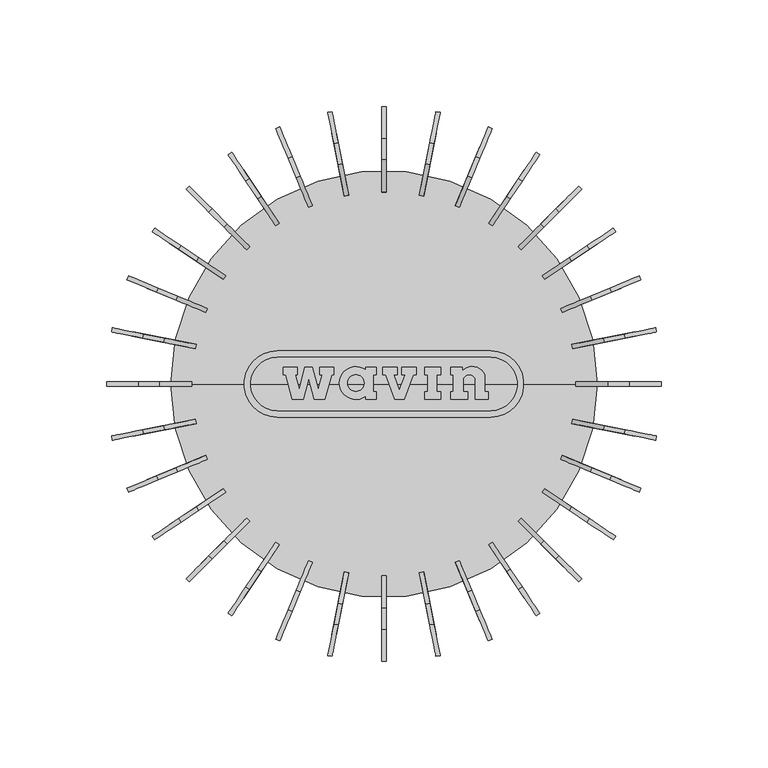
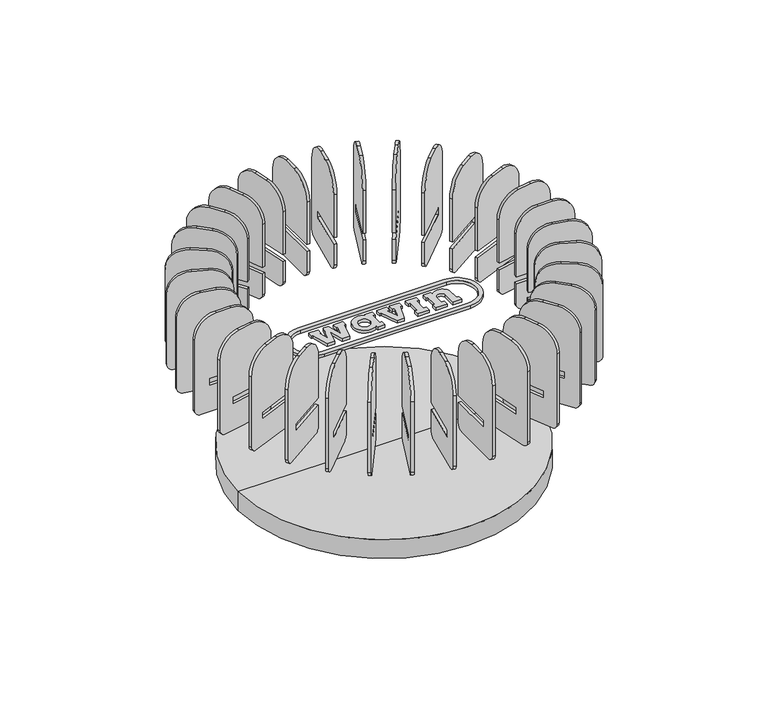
"""IFC4 building model written with IfcOpenShell, lengths in millimetres: sanitary terminal geometry, PAVCO_PVC QS Tragante : QS-M-75-260 Canal Metálica."""

from ifc_helpers import new_model, si_unit, point, frame, frame_2d, origin, place, context, project, spatial, polyline, circle_curve, trimmed, segment, composite_curve, outline, extrude, source, transform, mapped, element, save
from ifc_brep_helpers import plane_surface, cylinder_surface, advanced_brep


def sanitary_terminal_2fec540a(model_context):
    return source(origin(), model_context, "Body", "SolidModel", [
        extrude(outline(composite_curve([segment(trimmed(circle_curve(frame_2d((0.0, -4.0)), 4.0), [point((-4.0, -4.0))], [point((0.0, 0.0))], False, "CARTESIAN"), True, "CONTINUOUS"), segment(polyline([(0.0, 0.0), (15.0, 0.0), (15.0, -29.9999999), (20.0, -29.9999999), (20.0, 0.0), (51.0, 0.0)]), True, "CONTINUOUS"), segment(trimmed(circle_curve(frame_2d((51.0, -14.9999999)), 15.0), [point((51.0, 0.0))], [point((66.0, -14.9999999))], False, "CARTESIAN"), True, "CONTINUOUS"), segment(polyline([(66.0, -14.9999999), (66.0, -25.0)]), True, "CONTINUOUS"), segment(trimmed(circle_curve(frame_2d((51.0, -25.0)), 15.0), [point((66.0, -25.0))], [point((51.0, -40.0))], False, "CARTESIAN"), True, "CONTINUOUS"), segment(polyline([(51.0, -40.0), (0.0, -40.0)]), True, "CONTINUOUS"), segment(trimmed(circle_curve(frame_2d((0.0, -35.9999999)), 4.0), [point((0.0, -40.0))], [point((-4.0, -35.9999999))], False, "CARTESIAN"), True, "CONTINUOUS"), segment(polyline([(-4.0, -35.9999999), (-4.0, -4.0)]), True, "CONTINUOUS")], self_intersect=False)), frame((-83.5318414, 33.5176294, 75.0), z_axis=(0.38268343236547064, 0.9238795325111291, 0.0), x_axis=(0.0, 0.0, 1.0)), (0.0, 0.0, 1.0), 2.0),
        extrude(outline(composite_curve([segment(trimmed(circle_curve(frame_2d((0.0, -4.0)), 4.0), [point((-4.0, -4.0))], [point((0.0, 0.0))], False, "CARTESIAN"), True, "CONTINUOUS"), segment(polyline([(0.0, 0.0), (15.0, 0.0), (15.0, -30.0), (20.0, -30.0), (20.0, 0.0), (51.0, 0.0)]), True, "CONTINUOUS"), segment(trimmed(circle_curve(frame_2d((51.0, -15.0)), 15.0), [point((51.0, 0.0))], [point((66.0, -15.0))], False, "CARTESIAN"), True, "CONTINUOUS"), segment(polyline([(66.0, -15.0), (66.0, -25.0)]), True, "CONTINUOUS"), segment(trimmed(circle_curve(frame_2d((51.0, -25.0)), 15.0), [point((66.0, -25.0))], [point((51.0, -40.0))], False, "CARTESIAN"), True, "CONTINUOUS"), segment(polyline([(51.0, -40.0), (0.0, -40.0)]), True, "CONTINUOUS"), segment(trimmed(circle_curve(frame_2d((0.0, -36.0)), 4.0), [point((0.0, -40.0))], [point((-4.0, -36.0))], False, "CARTESIAN"), True, "CONTINUOUS"), segment(polyline([(-4.0, -36.0), (-4.0, -4.0)]), True, "CONTINUOUS")], self_intersect=False)), frame((-75.3878353, 49.1698514, 75.0), z_axis=(0.5555702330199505, 0.8314696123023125, 0.0), x_axis=(0.0, 0.0, 1.0)), (0.0, 0.0, 1.0), 2.0),
        extrude(outline(composite_curve([segment(trimmed(circle_curve(frame_2d((0.0, -4.0)), 4.0), [point((-4.0, -4.0))], [point((0.0, 0.0))], False, "CARTESIAN"), True, "CONTINUOUS"), segment(polyline([(0.0, 0.0), (15.0, 0.0), (15.0, -30.0), (20.0, -30.0), (20.0, 0.0), (51.0, 0.0)]), True, "CONTINUOUS"), segment(trimmed(circle_curve(frame_2d((51.0, -15.0)), 15.0), [point((51.0, 0.0))], [point((66.0, -15.0))], False, "CARTESIAN"), True, "CONTINUOUS"), segment(polyline([(66.0, -15.0), (66.0, -25.0)]), True, "CONTINUOUS"), segment(trimmed(circle_curve(frame_2d((51.0, -25.0)), 15.0), [point((66.0, -25.0))], [point((51.0, -40.0))], False, "CARTESIAN"), True, "CONTINUOUS"), segment(polyline([(51.0, -40.0), (0.0, -40.0)]), True, "CONTINUOUS"), segment(trimmed(circle_curve(frame_2d((0.0, -36.0)), 4.0), [point((0.0, -40.0))], [point((-4.0, -36.0))], False, "CARTESIAN"), True, "CONTINUOUS"), segment(polyline([(-4.0, -36.0), (-4.0, -4.0)]), True, "CONTINUOUS")], self_intersect=False)), frame((-64.3467171, 62.9325035, 75.0), z_axis=(0.7071067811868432, 0.7071067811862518, 0.0), x_axis=(0.0, 0.0, 1.0)), (0.0, 0.0, 1.0), 2.0),
        extrude(outline(composite_curve([segment(trimmed(circle_curve(frame_2d((0.0, -3.9999999)), 4.0), [point((-4.0, -3.9999999))], [point((0.0, 0.0))], False, "CARTESIAN"), True, "CONTINUOUS"), segment(polyline([(0.0, 0.0), (15.0, 0.0), (15.0, -29.9999999), (20.0, -29.9999999), (20.0, 0.0), (51.0, 0.0)]), True, "CONTINUOUS"), segment(trimmed(circle_curve(frame_2d((51.0, -15.0)), 15.0), [point((51.0, 0.0))], [point((66.0, -15.0))], False, "CARTESIAN"), True, "CONTINUOUS"), segment(polyline([(66.0, -15.0), (66.0, -25.0)]), True, "CONTINUOUS"), segment(trimmed(circle_curve(frame_2d((51.0, -25.0)), 15.0), [point((66.0, -25.0))], [point((51.0, -40.0))], False, "CARTESIAN"), True, "CONTINUOUS"), segment(polyline([(51.0, -40.0), (0.0, -40.0)]), True, "CONTINUOUS"), segment(trimmed(circle_curve(frame_2d((0.0, -36.0)), 4.0), [point((0.0, -40.0))], [point((-4.0, -36.0))], False, "CARTESIAN"), True, "CONTINUOUS"), segment(polyline([(-4.0, -36.0), (-4.0, -3.9999999)]), True, "CONTINUOUS")], self_intersect=False)), frame((-50.8327906, 74.2766949, 75.0), z_axis=(0.8314696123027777, 0.5555702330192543, 0.0), x_axis=(0.0, 0.0, 1.0)), (0.0, 0.0, 1.0), 2.0),
        extrude(outline(composite_curve([segment(trimmed(circle_curve(frame_2d((0.0, -4.0)), 4.0), [point((-4.0, -4.0))], [point((0.0, 0.0))], False, "CARTESIAN"), True, "CONTINUOUS"), segment(polyline([(0.0, 0.0), (15.0, 0.0), (15.0, -30.0), (20.0, -30.0), (20.0, 0.0), (51.0, 0.0)]), True, "CONTINUOUS"), segment(trimmed(circle_curve(frame_2d((51.0, -15.0)), 15.0), [point((51.0, 0.0))], [point((66.0, -15.0))], False, "CARTESIAN"), True, "CONTINUOUS"), segment(polyline([(66.0, -15.0), (66.0, -25.0)]), True, "CONTINUOUS"), segment(trimmed(circle_curve(frame_2d((51.0, -25.0)), 15.0), [point((66.0, -25.0))], [point((51.0, -40.0))], False, "CARTESIAN"), True, "CONTINUOUS"), segment(polyline([(51.0, -40.0), (0.0, -40.0)]), True, "CONTINUOUS"), segment(trimmed(circle_curve(frame_2d((0.0, -36.0)), 4.0), [point((0.0, -40.0))], [point((-4.0, -36.0))], False, "CARTESIAN"), True, "CONTINUOUS"), segment(polyline([(-4.0, -36.0), (-4.0, -4.0)]), True, "CONTINUOUS")], self_intersect=False)), frame((-35.3653884, 82.7664745, 75.0), z_axis=(0.9238795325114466, 0.3826834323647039, 0.0), x_axis=(0.0, 0.0, 1.0)), (0.0, 0.0, 1.0), 2.0),
        extrude(outline(composite_curve([segment(trimmed(circle_curve(frame_2d((0.0, -4.0)), 4.0), [point((-4.0, -4.0))], [point((0.0, 0.0))], False, "CARTESIAN"), True, "CONTINUOUS"), segment(polyline([(0.0, 0.0), (15.0, 0.0), (15.0, -30.0), (20.0, -30.0), (20.0, 0.0), (51.0, 0.0)]), True, "CONTINUOUS"), segment(trimmed(circle_curve(frame_2d((51.0, -15.0)), 15.0), [point((51.0, 0.0))], [point((66.0, -15.0))], False, "CARTESIAN"), True, "CONTINUOUS"), segment(polyline([(66.0, -15.0), (66.0, -25.0)]), True, "CONTINUOUS"), segment(trimmed(circle_curve(frame_2d((51.0, -25.0)), 15.0), [point((66.0, -25.0))], [point((51.0, -40.0))], False, "CARTESIAN"), True, "CONTINUOUS"), segment(polyline([(51.0, -40.0), (0.0, -40.0)]), True, "CONTINUOUS"), segment(trimmed(circle_curve(frame_2d((0.0, -36.0)), 4.0), [point((0.0, -40.0))], [point((-4.0, -36.0))], False, "CARTESIAN"), True, "CONTINUOUS"), segment(polyline([(-4.0, -36.0), (-4.0, -4.0)]), True, "CONTINUOUS")], self_intersect=False)), frame((-18.5389143, 88.0755849, 75.0), z_axis=(0.980785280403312, 0.19509032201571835, 0.0), x_axis=(0.0, 0.0, 1.0)), (0.0, 0.0, 1.0), 2.0),
        extrude(outline(composite_curve([segment(trimmed(circle_curve(frame_2d((94.0, 75.0)), 4.0), [point((94.0, 71.0))], [point((90.0, 75.0))], False, "CARTESIAN"), True, "CONTINUOUS"), segment(polyline([(90.0, 75.0), (90.0, 90.0), (120.0, 90.0), (120.0, 95.0), (90.0, 95.0), (90.0, 126.0)]), True, "CONTINUOUS"), segment(trimmed(circle_curve(frame_2d((105.0, 126.0)), 15.0), [point((90.0, 126.0))], [point((105.0, 141.0))], False, "CARTESIAN"), True, "CONTINUOUS"), segment(polyline([(105.0, 141.0), (115.0, 141.0)]), True, "CONTINUOUS"), segment(trimmed(circle_curve(frame_2d((115.0, 126.0)), 15.0), [point((115.0, 141.0))], [point((130.0, 126.0))], False, "CARTESIAN"), True, "CONTINUOUS"), segment(polyline([(130.0, 126.0), (130.0, 75.0)]), True, "CONTINUOUS"), segment(trimmed(circle_curve(frame_2d((126.0, 75.0)), 4.0), [point((130.0, 75.0))], [point((126.0, 71.0))], False, "CARTESIAN"), True, "CONTINUOUS"), segment(polyline([(126.0, 71.0), (94.0, 71.0)]), True, "CONTINUOUS")], self_intersect=False)), frame((-1.0, 0.0, 0.0), z_axis=(1.0, 0.0, 0.0), x_axis=(0.0, 1.0, 0.0)), (0.0, 0.0, 1.0), 2.0),
        extrude(outline(composite_curve([segment(polyline([(4.0, -4.0), (4.0, -36.0)]), True, "CONTINUOUS"), segment(trimmed(circle_curve(frame_2d((0.0, -36.0)), 4.0), [point((4.0, -36.0))], [point((0.0, -40.0))], False, "CARTESIAN"), True, "CONTINUOUS"), segment(polyline([(0.0, -40.0), (-51.0, -40.0)]), True, "CONTINUOUS"), segment(trimmed(circle_curve(frame_2d((-51.0, -25.0)), 15.0), [point((-51.0, -40.0))], [point((-66.0, -25.0))], False, "CARTESIAN"), True, "CONTINUOUS"), segment(polyline([(-66.0, -25.0), (-66.0, -15.0)]), True, "CONTINUOUS"), segment(trimmed(circle_curve(frame_2d((-51.0, -15.0)), 15.0), [point((-66.0, -15.0))], [point((-51.0, 0.0))], False, "CARTESIAN"), True, "CONTINUOUS"), segment(polyline([(-51.0, 0.0), (-20.0, 0.0), (-20.0, -30.0), (-15.0, -30.0), (-15.0, 0.0), (0.0, 0.0)]), True, "CONTINUOUS"), segment(trimmed(circle_curve(frame_2d((0.0, -4.0)), 4.0), [point((0.0, 0.0))], [point((4.0, -4.0))], False, "CARTESIAN"), True, "CONTINUOUS")], self_intersect=False)), frame((18.5389143, 88.0755849, 75.0), z_axis=(-0.9807852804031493, 0.19509032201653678, 0.0), x_axis=(0.0, 0.0, -1.0)), (0.0, 0.0, 1.0), 2.0),
        extrude(outline(composite_curve([segment(polyline([(4.0, -4.0), (4.0, -36.0)]), True, "CONTINUOUS"), segment(trimmed(circle_curve(frame_2d((0.0, -36.0)), 4.0), [point((4.0, -36.0))], [point((0.0, -40.0))], False, "CARTESIAN"), True, "CONTINUOUS"), segment(polyline([(0.0, -40.0), (-51.0, -40.0)]), True, "CONTINUOUS"), segment(trimmed(circle_curve(frame_2d((-51.0, -25.0)), 15.0), [point((-51.0, -40.0))], [point((-66.0, -25.0))], False, "CARTESIAN"), True, "CONTINUOUS"), segment(polyline([(-66.0, -25.0), (-66.0, -15.0)]), True, "CONTINUOUS"), segment(trimmed(circle_curve(frame_2d((-51.0, -15.0)), 15.0), [point((-66.0, -15.0))], [point((-51.0, 0.0))], False, "CARTESIAN"), True, "CONTINUOUS"), segment(polyline([(-51.0, 0.0), (-20.0, 0.0), (-20.0, -30.0), (-15.0, -30.0), (-15.0, 0.0), (0.0, 0.0)]), True, "CONTINUOUS"), segment(trimmed(circle_curve(frame_2d((0.0, -4.0)), 4.0), [point((0.0, 0.0))], [point((4.0, -4.0))], False, "CARTESIAN"), True, "CONTINUOUS")], self_intersect=False)), frame((35.3653884, 82.7664745, 75.0), z_axis=(-0.9238795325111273, 0.38268343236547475, 0.0), x_axis=(0.0, 0.0, -1.0)), (0.0, 0.0, 1.0), 2.0),
        extrude(outline(composite_curve([segment(polyline([(4.0, -3.9999999), (4.0, -36.0)]), True, "CONTINUOUS"), segment(trimmed(circle_curve(frame_2d((0.0, -36.0)), 4.0), [point((4.0, -36.0))], [point((0.0, -40.0))], False, "CARTESIAN"), True, "CONTINUOUS"), segment(polyline([(0.0, -40.0), (-51.0, -40.0)]), True, "CONTINUOUS"), segment(trimmed(circle_curve(frame_2d((-51.0, -25.0)), 15.0), [point((-51.0, -40.0))], [point((-66.0, -25.0))], False, "CARTESIAN"), True, "CONTINUOUS"), segment(polyline([(-66.0, -25.0), (-66.0, -15.0)]), True, "CONTINUOUS"), segment(trimmed(circle_curve(frame_2d((-51.0, -15.0)), 15.0), [point((-66.0, -15.0))], [point((-51.0, 0.0))], False, "CARTESIAN"), True, "CONTINUOUS"), segment(polyline([(-51.0, 0.0), (-20.0, 0.0), (-20.0, -29.9999999), (-15.0, -29.9999999), (-15.0, 0.0), (0.0, 0.0)]), True, "CONTINUOUS"), segment(trimmed(circle_curve(frame_2d((0.0, -3.9999999)), 4.0), [point((0.0, 0.0))], [point((4.0, -3.9999999))], False, "CARTESIAN"), True, "CONTINUOUS")], self_intersect=False)), frame((50.8327906, 74.2766949, 75.0), z_axis=(-0.8314696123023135, 0.5555702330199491, 0.0), x_axis=(0.0, 0.0, -1.0)), (0.0, 0.0, 1.0), 2.0),
        extrude(outline(composite_curve([segment(polyline([(4.0, -4.0), (4.0, -36.0)]), True, "CONTINUOUS"), segment(trimmed(circle_curve(frame_2d((0.0, -36.0)), 4.0), [point((4.0, -36.0))], [point((0.0, -40.0))], False, "CARTESIAN"), True, "CONTINUOUS"), segment(polyline([(0.0, -40.0), (-51.0, -40.0)]), True, "CONTINUOUS"), segment(trimmed(circle_curve(frame_2d((-51.0, -25.0)), 15.0), [point((-51.0, -40.0))], [point((-66.0, -25.0))], False, "CARTESIAN"), True, "CONTINUOUS"), segment(polyline([(-66.0, -25.0), (-66.0, -15.0)]), True, "CONTINUOUS"), segment(trimmed(circle_curve(frame_2d((-51.0, -15.0)), 15.0), [point((-66.0, -15.0))], [point((-51.0, 0.0))], False, "CARTESIAN"), True, "CONTINUOUS"), segment(polyline([(-51.0, 0.0), (-20.0, 0.0), (-20.0, -30.0), (-15.0, -30.0), (-15.0, 0.0), (0.0, 0.0)]), True, "CONTINUOUS"), segment(trimmed(circle_curve(frame_2d((0.0, -4.0)), 4.0), [point((0.0, 0.0))], [point((4.0, -4.0))], False, "CARTESIAN"), True, "CONTINUOUS")], self_intersect=False)), frame((64.3467171, 62.9325035, 75.0), z_axis=(-0.7071067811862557, 0.7071067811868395, 0.0), x_axis=(0.0, 0.0, -1.0)), (0.0, 0.0, 1.0), 2.0),
        extrude(outline(composite_curve([segment(polyline([(4.0, -4.0), (4.0, -36.0)]), True, "CONTINUOUS"), segment(trimmed(circle_curve(frame_2d((0.0, -36.0)), 4.0), [point((4.0, -36.0))], [point((0.0, -40.0))], False, "CARTESIAN"), True, "CONTINUOUS"), segment(polyline([(0.0, -40.0), (-51.0, -40.0)]), True, "CONTINUOUS"), segment(trimmed(circle_curve(frame_2d((-51.0, -25.0)), 15.0), [point((-51.0, -40.0))], [point((-66.0, -25.0))], False, "CARTESIAN"), True, "CONTINUOUS"), segment(polyline([(-66.0, -25.0), (-66.0, -15.0)]), True, "CONTINUOUS"), segment(trimmed(circle_curve(frame_2d((-51.0, -15.0)), 15.0), [point((-66.0, -15.0))], [point((-51.0, 0.0))], False, "CARTESIAN"), True, "CONTINUOUS"), segment(polyline([(-51.0, 0.0), (-20.0, 0.0), (-20.0, -30.0), (-15.0, -30.0), (-15.0, 0.0), (0.0, 0.0)]), True, "CONTINUOUS"), segment(trimmed(circle_curve(frame_2d((0.0, -4.0)), 4.0), [point((0.0, 0.0))], [point((4.0, -4.0))], False, "CARTESIAN"), True, "CONTINUOUS")], self_intersect=False)), frame((75.3878353, 49.1698514, 75.0), z_axis=(-0.5555702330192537, 0.8314696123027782, 0.0), x_axis=(0.0, 0.0, -1.0)), (0.0, 0.0, 1.0), 2.0),
        extrude(outline(composite_curve([segment(polyline([(4.0, -4.0), (4.0, -35.9999999)]), True, "CONTINUOUS"), segment(trimmed(circle_curve(frame_2d((0.0, -35.9999999)), 4.0), [point((4.0, -35.9999999))], [point((0.0, -40.0))], False, "CARTESIAN"), True, "CONTINUOUS"), segment(polyline([(0.0, -40.0), (-51.0, -40.0)]), True, "CONTINUOUS"), segment(trimmed(circle_curve(frame_2d((-51.0, -25.0)), 15.0), [point((-51.0, -40.0))], [point((-66.0, -25.0))], False, "CARTESIAN"), True, "CONTINUOUS"), segment(polyline([(-66.0, -25.0), (-66.0, -14.9999999)]), True, "CONTINUOUS"), segment(trimmed(circle_curve(frame_2d((-51.0, -14.9999999)), 15.0), [point((-66.0, -14.9999999))], [point((-51.0, 0.0))], False, "CARTESIAN"), True, "CONTINUOUS"), segment(polyline([(-51.0, 0.0), (-20.0, 0.0), (-20.0, -29.9999999), (-15.0, -29.9999999), (-15.0, 0.0), (0.0, 0.0)]), True, "CONTINUOUS"), segment(trimmed(circle_curve(frame_2d((0.0, -4.0)), 4.0), [point((0.0, 0.0))], [point((4.0, -4.0))], False, "CARTESIAN"), True, "CONTINUOUS")], self_intersect=False)), frame((83.5318414, 33.5176294, 75.0), z_axis=(-0.38268343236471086, 0.9238795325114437, 0.0), x_axis=(0.0, 0.0, -1.0)), (0.0, 0.0, 1.0), 2.0),
        extrude(outline(composite_curve([segment(polyline([(4.0, -4.0), (4.0, -36.0)]), True, "CONTINUOUS"), segment(trimmed(circle_curve(frame_2d((0.0, -36.0)), 4.0), [point((4.0, -36.0))], [point((0.0, -40.0))], False, "CARTESIAN"), True, "CONTINUOUS"), segment(polyline([(0.0, -40.0), (-51.0, -40.0)]), True, "CONTINUOUS"), segment(trimmed(circle_curve(frame_2d((-51.0, -25.0)), 15.0), [point((-51.0, -40.0))], [point((-66.0, -25.0))], False, "CARTESIAN"), True, "CONTINUOUS"), segment(polyline([(-66.0, -25.0), (-66.0, -15.0)]), True, "CONTINUOUS"), segment(trimmed(circle_curve(frame_2d((-51.0, -15.0)), 15.0), [point((-66.0, -15.0))], [point((-51.0, 0.0))], False, "CARTESIAN"), True, "CONTINUOUS"), segment(polyline([(-51.0, 0.0), (-20.0, 0.0), (-20.0, -30.0), (-15.0, -30.0), (-15.0, 0.0), (0.0, 0.0)]), True, "CONTINUOUS"), segment(trimmed(circle_curve(frame_2d((0.0, -4.0)), 4.0), [point((0.0, 0.0))], [point((4.0, -4.0))], False, "CARTESIAN"), True, "CONTINUOUS")], self_intersect=False)), frame((88.4657656, 16.5773437, 75.0), z_axis=(-0.19509032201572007, 0.9807852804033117, 0.0), x_axis=(0.0, 0.0, -1.0)), (0.0, 0.0, 1.0), 2.0),
        extrude(outline(composite_curve([segment(polyline([(71.0, 94.0), (71.0, 126.0)]), True, "CONTINUOUS"), segment(trimmed(circle_curve(frame_2d((75.0, 126.0)), 4.0), [point((71.0, 126.0))], [point((75.0, 130.0))], False, "CARTESIAN"), True, "CONTINUOUS"), segment(polyline([(75.0, 130.0), (126.0, 130.0)]), True, "CONTINUOUS"), segment(trimmed(circle_curve(frame_2d((126.0, 115.0)), 15.0), [point((126.0, 130.0))], [point((141.0, 115.0))], False, "CARTESIAN"), True, "CONTINUOUS"), segment(polyline([(141.0, 115.0), (141.0, 105.0)]), True, "CONTINUOUS"), segment(trimmed(circle_curve(frame_2d((126.0, 105.0)), 15.0), [point((141.0, 105.0))], [point((126.0, 90.0))], False, "CARTESIAN"), True, "CONTINUOUS"), segment(polyline([(126.0, 90.0), (95.0, 90.0), (95.0, 120.0), (90.0, 120.0), (90.0, 90.0), (75.0, 90.0)]), True, "CONTINUOUS"), segment(trimmed(circle_curve(frame_2d((75.0, 94.0)), 4.0), [point((75.0, 90.0))], [point((71.0, 94.0))], False, "CARTESIAN"), True, "CONTINUOUS")], self_intersect=False)), frame((0.0, -1.0, 0.0), z_axis=(0.0, 1.0, 0.0), x_axis=(0.0, 0.0, 1.0)), (0.0, 0.0, 1.0), 2.0),
        extrude(outline(composite_curve([segment(polyline([(4.0, -4.0), (4.0, -36.0)]), True, "CONTINUOUS"), segment(trimmed(circle_curve(frame_2d((0.0, -36.0)), 4.0), [point((4.0, -36.0))], [point((0.0, -40.0))], False, "CARTESIAN"), True, "CONTINUOUS"), segment(polyline([(0.0, -40.0), (-51.0, -40.0)]), True, "CONTINUOUS"), segment(trimmed(circle_curve(frame_2d((-51.0, -25.0)), 15.0), [point((-51.0, -40.0))], [point((-66.0, -25.0))], False, "CARTESIAN"), True, "CONTINUOUS"), segment(polyline([(-66.0, -25.0), (-66.0, -15.0)]), True, "CONTINUOUS"), segment(trimmed(circle_curve(frame_2d((-51.0, -15.0)), 15.0), [point((-66.0, -15.0))], [point((-51.0, 0.0))], False, "CARTESIAN"), True, "CONTINUOUS"), segment(polyline([(-51.0, 0.0), (-20.0, 0.0), (-20.0, -30.0), (-15.0, -30.0), (-15.0, 0.0), (0.0, 0.0)]), True, "CONTINUOUS"), segment(trimmed(circle_curve(frame_2d((0.0, -4.0)), 4.0), [point((0.0, 0.0))], [point((4.0, -4.0))], False, "CARTESIAN"), True, "CONTINUOUS")], self_intersect=False)), frame((88.0755849, -18.5389143, 75.0), z_axis=(0.19509032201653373, 0.9807852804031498, 0.0), x_axis=(0.0, 0.0, -1.0)), (0.0, 0.0, 1.0), 2.0),
        extrude(outline(composite_curve([segment(polyline([(4.0, -4.0), (4.0, -36.0)]), True, "CONTINUOUS"), segment(trimmed(circle_curve(frame_2d((0.0, -36.0)), 4.0), [point((4.0, -36.0))], [point((0.0, -40.0))], False, "CARTESIAN"), True, "CONTINUOUS"), segment(polyline([(0.0, -40.0), (-51.0, -40.0)]), True, "CONTINUOUS"), segment(trimmed(circle_curve(frame_2d((-51.0, -25.0)), 15.0), [point((-51.0, -40.0))], [point((-66.0, -25.0))], False, "CARTESIAN"), True, "CONTINUOUS"), segment(polyline([(-66.0, -25.0), (-66.0, -15.0)]), True, "CONTINUOUS"), segment(trimmed(circle_curve(frame_2d((-51.0, -15.0)), 15.0), [point((-66.0, -15.0))], [point((-51.0, 0.0))], False, "CARTESIAN"), True, "CONTINUOUS"), segment(polyline([(-51.0, 0.0), (-20.0, 0.0), (-20.0, -30.0), (-15.0, -30.0), (-15.0, 0.0), (0.0, 0.0)]), True, "CONTINUOUS"), segment(trimmed(circle_curve(frame_2d((0.0, -4.0)), 4.0), [point((0.0, 0.0))], [point((4.0, -4.0))], False, "CARTESIAN"), True, "CONTINUOUS")], self_intersect=False)), frame((82.7664745, -35.3653884, 75.0), z_axis=(0.3826834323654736, 0.9238795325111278, 0.0), x_axis=(0.0, 0.0, -1.0)), (0.0, 0.0, 1.0), 2.0),
        extrude(outline(composite_curve([segment(polyline([(4.0, -3.9999999), (4.0, -36.0)]), True, "CONTINUOUS"), segment(trimmed(circle_curve(frame_2d((0.0, -36.0)), 4.0), [point((4.0, -36.0))], [point((0.0, -40.0))], False, "CARTESIAN"), True, "CONTINUOUS"), segment(polyline([(0.0, -40.0), (-51.0, -40.0)]), True, "CONTINUOUS"), segment(trimmed(circle_curve(frame_2d((-51.0, -25.0)), 15.0), [point((-51.0, -40.0))], [point((-66.0, -25.0))], False, "CARTESIAN"), True, "CONTINUOUS"), segment(polyline([(-66.0, -25.0), (-66.0, -15.0)]), True, "CONTINUOUS"), segment(trimmed(circle_curve(frame_2d((-51.0, -15.0)), 15.0), [point((-66.0, -15.0))], [point((-51.0, 0.0))], False, "CARTESIAN"), True, "CONTINUOUS"), segment(polyline([(-51.0, 0.0), (-20.0, 0.0), (-20.0, -29.9999999), (-15.0, -29.9999999), (-15.0, 0.0), (0.0, 0.0)]), True, "CONTINUOUS"), segment(trimmed(circle_curve(frame_2d((0.0, -3.9999999)), 4.0), [point((0.0, 0.0))], [point((4.0, -3.9999999))], False, "CARTESIAN"), True, "CONTINUOUS")], self_intersect=False)), frame((74.2766949, -50.8327906, 75.0), z_axis=(0.5555702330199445, 0.8314696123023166, 0.0), x_axis=(0.0, 0.0, -1.0)), (0.0, 0.0, 1.0), 2.0),
        extrude(outline(composite_curve([segment(polyline([(4.0, -4.0), (4.0, -36.0)]), True, "CONTINUOUS"), segment(trimmed(circle_curve(frame_2d((0.0, -36.0)), 4.0), [point((4.0, -36.0))], [point((0.0, -40.0))], False, "CARTESIAN"), True, "CONTINUOUS"), segment(polyline([(0.0, -40.0), (-51.0, -40.0)]), True, "CONTINUOUS"), segment(trimmed(circle_curve(frame_2d((-51.0, -25.0)), 15.0), [point((-51.0, -40.0))], [point((-66.0, -25.0))], False, "CARTESIAN"), True, "CONTINUOUS"), segment(polyline([(-66.0, -25.0), (-66.0, -15.0)]), True, "CONTINUOUS"), segment(trimmed(circle_curve(frame_2d((-51.0, -15.0)), 15.0), [point((-66.0, -15.0))], [point((-51.0, 0.0))], False, "CARTESIAN"), True, "CONTINUOUS"), segment(polyline([(-51.0, 0.0), (-20.0, 0.0), (-20.0, -30.0), (-15.0, -30.0), (-15.0, 0.0), (0.0, 0.0)]), True, "CONTINUOUS"), segment(trimmed(circle_curve(frame_2d((0.0, -4.0)), 4.0), [point((0.0, 0.0))], [point((4.0, -4.0))], False, "CARTESIAN"), True, "CONTINUOUS")], self_intersect=False)), frame((62.9325035, -64.3467171, 75.0), z_axis=(0.7071067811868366, 0.7071067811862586, 0.0), x_axis=(0.0, 0.0, -1.0)), (0.0, 0.0, 1.0), 2.0),
        extrude(outline(composite_curve([segment(polyline([(4.0, -4.0), (4.0, -36.0)]), True, "CONTINUOUS"), segment(trimmed(circle_curve(frame_2d((0.0, -36.0)), 4.0), [point((4.0, -36.0))], [point((0.0, -40.0))], False, "CARTESIAN"), True, "CONTINUOUS"), segment(polyline([(0.0, -40.0), (-51.0, -40.0)]), True, "CONTINUOUS"), segment(trimmed(circle_curve(frame_2d((-51.0, -25.0)), 15.0), [point((-51.0, -40.0))], [point((-66.0, -25.0))], False, "CARTESIAN"), True, "CONTINUOUS"), segment(polyline([(-66.0, -25.0), (-66.0, -15.0)]), True, "CONTINUOUS"), segment(trimmed(circle_curve(frame_2d((-51.0, -15.0)), 15.0), [point((-66.0, -15.0))], [point((-51.0, 0.0))], False, "CARTESIAN"), True, "CONTINUOUS"), segment(polyline([(-51.0, 0.0), (-20.0, 0.0), (-20.0, -30.0), (-15.0, -30.0), (-15.0, 0.0), (0.0, 0.0)]), True, "CONTINUOUS"), segment(trimmed(circle_curve(frame_2d((0.0, -4.0)), 4.0), [point((0.0, 0.0))], [point((4.0, -4.0))], False, "CARTESIAN"), True, "CONTINUOUS")], self_intersect=False)), frame((49.1698514, -75.3878353, 75.0), z_axis=(0.8314696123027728, 0.5555702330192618, 0.0), x_axis=(0.0, 0.0, -1.0)), (0.0, 0.0, 1.0), 2.0),
        extrude(outline(composite_curve([segment(polyline([(4.0, -4.0), (4.0, -35.9999999)]), True, "CONTINUOUS"), segment(trimmed(circle_curve(frame_2d((0.0, -35.9999999)), 4.0), [point((4.0, -35.9999999))], [point((0.0, -40.0))], False, "CARTESIAN"), True, "CONTINUOUS"), segment(polyline([(0.0, -40.0), (-51.0, -40.0)]), True, "CONTINUOUS"), segment(trimmed(circle_curve(frame_2d((-51.0, -25.0)), 15.0), [point((-51.0, -40.0))], [point((-66.0, -25.0))], False, "CARTESIAN"), True, "CONTINUOUS"), segment(polyline([(-66.0, -25.0), (-66.0, -14.9999999)]), True, "CONTINUOUS"), segment(trimmed(circle_curve(frame_2d((-51.0, -14.9999999)), 15.0), [point((-66.0, -14.9999999))], [point((-51.0, 0.0))], False, "CARTESIAN"), True, "CONTINUOUS"), segment(polyline([(-51.0, 0.0), (-20.0, 0.0), (-20.0, -29.9999999), (-15.0, -29.9999999), (-15.0, 0.0), (0.0, 0.0)]), True, "CONTINUOUS"), segment(trimmed(circle_curve(frame_2d((0.0, -4.0)), 4.0), [point((0.0, 0.0))], [point((4.0, -4.0))], False, "CARTESIAN"), True, "CONTINUOUS")], self_intersect=False)), frame((33.5176294, -83.5318414, 75.0), z_axis=(0.9238795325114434, 0.38268343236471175, 0.0), x_axis=(0.0, 0.0, -1.0)), (0.0, 0.0, 1.0), 2.0),
        extrude(outline(composite_curve([segment(polyline([(4.0, -4.0), (4.0, -36.0)]), True, "CONTINUOUS"), segment(trimmed(circle_curve(frame_2d((0.0, -36.0)), 4.0), [point((4.0, -36.0))], [point((0.0, -40.0))], False, "CARTESIAN"), True, "CONTINUOUS"), segment(polyline([(0.0, -40.0), (-51.0, -40.0)]), True, "CONTINUOUS"), segment(trimmed(circle_curve(frame_2d((-51.0, -25.0)), 15.0), [point((-51.0, -40.0))], [point((-66.0, -25.0))], False, "CARTESIAN"), True, "CONTINUOUS"), segment(polyline([(-66.0, -25.0), (-66.0, -15.0)]), True, "CONTINUOUS"), segment(trimmed(circle_curve(frame_2d((-51.0, -15.0)), 15.0), [point((-66.0, -15.0))], [point((-51.0, 0.0))], False, "CARTESIAN"), True, "CONTINUOUS"), segment(polyline([(-51.0, 0.0), (-20.0, 0.0), (-20.0, -30.0), (-15.0, -30.0), (-15.0, 0.0), (0.0, 0.0)]), True, "CONTINUOUS"), segment(trimmed(circle_curve(frame_2d((0.0, -4.0)), 4.0), [point((0.0, 0.0))], [point((4.0, -4.0))], False, "CARTESIAN"), True, "CONTINUOUS")], self_intersect=False)), frame((16.5773437, -88.4657656, 75.0), z_axis=(0.9807852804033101, 0.1950903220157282, 0.0), x_axis=(0.0, 0.0, -1.0)), (0.0, 0.0, 1.0), 2.0),
        extrude(outline(composite_curve([segment(polyline([(-94.0, 71.0), (-126.0, 71.0)]), True, "CONTINUOUS"), segment(trimmed(circle_curve(frame_2d((-126.0, 75.0)), 4.0), [point((-126.0, 71.0))], [point((-130.0, 75.0))], False, "CARTESIAN"), True, "CONTINUOUS"), segment(polyline([(-130.0, 75.0), (-130.0, 126.0)]), True, "CONTINUOUS"), segment(trimmed(circle_curve(frame_2d((-115.0, 126.0)), 15.0), [point((-130.0, 126.0))], [point((-115.0, 141.0))], False, "CARTESIAN"), True, "CONTINUOUS"), segment(polyline([(-115.0, 141.0), (-105.0, 141.0)]), True, "CONTINUOUS"), segment(trimmed(circle_curve(frame_2d((-105.0, 126.0)), 15.0), [point((-105.0, 141.0))], [point((-90.0, 126.0))], False, "CARTESIAN"), True, "CONTINUOUS"), segment(polyline([(-90.0, 126.0), (-90.0, 95.0), (-120.0, 95.0), (-120.0, 90.0), (-90.0, 90.0), (-90.0, 75.0)]), True, "CONTINUOUS"), segment(trimmed(circle_curve(frame_2d((-94.0, 75.0)), 4.0), [point((-90.0, 75.0))], [point((-94.0, 71.0))], False, "CARTESIAN"), True, "CONTINUOUS")], self_intersect=False)), frame((-1.0, 0.0, 0.0), z_axis=(1.0, 0.0, 0.0), x_axis=(0.0, 1.0, 0.0)), (0.0, 0.0, 1.0), 2.0),
        extrude(outline(composite_curve([segment(trimmed(circle_curve(frame_2d((0.0, -4.0)), 4.0), [point((-4.0, -4.0))], [point((0.0, 0.0))], False, "CARTESIAN"), True, "CONTINUOUS"), segment(polyline([(0.0, 0.0), (15.0, 0.0), (15.0, -30.0), (20.0, -30.0), (20.0, 0.0), (51.0, 0.0)]), True, "CONTINUOUS"), segment(trimmed(circle_curve(frame_2d((51.0, -15.0)), 15.0), [point((51.0, 0.0))], [point((66.0, -15.0))], False, "CARTESIAN"), True, "CONTINUOUS"), segment(polyline([(66.0, -15.0), (66.0, -25.0)]), True, "CONTINUOUS"), segment(trimmed(circle_curve(frame_2d((51.0, -25.0)), 15.0), [point((66.0, -25.0))], [point((51.0, -40.0))], False, "CARTESIAN"), True, "CONTINUOUS"), segment(polyline([(51.0, -40.0), (0.0, -40.0)]), True, "CONTINUOUS"), segment(trimmed(circle_curve(frame_2d((0.0, -36.0)), 4.0), [point((0.0, -40.0))], [point((-4.0, -36.0))], False, "CARTESIAN"), True, "CONTINUOUS"), segment(polyline([(-4.0, -36.0), (-4.0, -4.0)]), True, "CONTINUOUS")], self_intersect=False)), frame((-16.5773437, -88.4657656, 75.0), z_axis=(-0.9807852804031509, 0.19509032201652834, 0.0), x_axis=(0.0, 0.0, 1.0)), (0.0, 0.0, 1.0), 2.0),
        extrude(outline(composite_curve([segment(trimmed(circle_curve(frame_2d((0.0, -4.0)), 4.0), [point((-4.0, -4.0))], [point((0.0, 0.0))], False, "CARTESIAN"), True, "CONTINUOUS"), segment(polyline([(0.0, 0.0), (15.0, 0.0), (15.0, -29.9999999), (20.0, -29.9999999), (20.0, 0.0), (51.0, 0.0)]), True, "CONTINUOUS"), segment(trimmed(circle_curve(frame_2d((51.0, -14.9999999)), 15.0), [point((51.0, 0.0))], [point((66.0, -14.9999999))], False, "CARTESIAN"), True, "CONTINUOUS"), segment(polyline([(66.0, -14.9999999), (66.0, -25.0)]), True, "CONTINUOUS"), segment(trimmed(circle_curve(frame_2d((51.0, -25.0)), 15.0), [point((66.0, -25.0))], [point((51.0, -40.0))], False, "CARTESIAN"), True, "CONTINUOUS"), segment(polyline([(51.0, -40.0), (0.0, -40.0)]), True, "CONTINUOUS"), segment(trimmed(circle_curve(frame_2d((0.0, -35.9999999)), 4.0), [point((0.0, -40.0))], [point((-4.0, -35.9999999))], False, "CARTESIAN"), True, "CONTINUOUS"), segment(polyline([(-4.0, -35.9999999), (-4.0, -4.0)]), True, "CONTINUOUS")], self_intersect=False)), frame((-33.5176294, -83.5318414, 75.0), z_axis=(-0.9238795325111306, 0.3826834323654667, 0.0), x_axis=(0.0, 0.0, 1.0)), (0.0, 0.0, 1.0), 2.0),
        extrude(outline(composite_curve([segment(trimmed(circle_curve(frame_2d((0.0, -4.0)), 4.0), [point((-4.0, -4.0))], [point((0.0, 0.0))], False, "CARTESIAN"), True, "CONTINUOUS"), segment(polyline([(0.0, 0.0), (15.0, 0.0), (15.0, -30.0), (20.0, -30.0), (20.0, 0.0), (51.0, 0.0)]), True, "CONTINUOUS"), segment(trimmed(circle_curve(frame_2d((51.0, -15.0)), 15.0), [point((51.0, 0.0))], [point((66.0, -15.0))], False, "CARTESIAN"), True, "CONTINUOUS"), segment(polyline([(66.0, -15.0), (66.0, -25.0)]), True, "CONTINUOUS"), segment(trimmed(circle_curve(frame_2d((51.0, -25.0)), 15.0), [point((66.0, -25.0))], [point((51.0, -40.0))], False, "CARTESIAN"), True, "CONTINUOUS"), segment(polyline([(51.0, -40.0), (0.0, -40.0)]), True, "CONTINUOUS"), segment(trimmed(circle_curve(frame_2d((0.0, -36.0)), 4.0), [point((0.0, -40.0))], [point((-4.0, -36.0))], False, "CARTESIAN"), True, "CONTINUOUS"), segment(polyline([(-4.0, -36.0), (-4.0, -4.0)]), True, "CONTINUOUS")], self_intersect=False)), frame((-49.1698514, -75.3878353, 75.0), z_axis=(-0.8314696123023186, 0.5555702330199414, 0.0), x_axis=(0.0, 0.0, 1.0)), (0.0, 0.0, 1.0), 2.0),
        extrude(outline(composite_curve([segment(trimmed(circle_curve(frame_2d((0.0, -4.0)), 4.0), [point((-4.0, -4.0))], [point((0.0, 0.0))], False, "CARTESIAN"), True, "CONTINUOUS"), segment(polyline([(0.0, 0.0), (15.0, 0.0), (15.0, -30.0), (20.0, -30.0), (20.0, 0.0), (51.0, 0.0)]), True, "CONTINUOUS"), segment(trimmed(circle_curve(frame_2d((51.0, -15.0)), 15.0), [point((51.0, 0.0))], [point((66.0, -15.0))], False, "CARTESIAN"), True, "CONTINUOUS"), segment(polyline([(66.0, -15.0), (66.0, -25.0)]), True, "CONTINUOUS"), segment(trimmed(circle_curve(frame_2d((51.0, -25.0)), 15.0), [point((66.0, -25.0))], [point((51.0, -40.0))], False, "CARTESIAN"), True, "CONTINUOUS"), segment(polyline([(51.0, -40.0), (0.0, -40.0)]), True, "CONTINUOUS"), segment(trimmed(circle_curve(frame_2d((0.0, -36.0)), 4.0), [point((0.0, -40.0))], [point((-4.0, -36.0))], False, "CARTESIAN"), True, "CONTINUOUS"), segment(polyline([(-4.0, -36.0), (-4.0, -4.0)]), True, "CONTINUOUS")], self_intersect=False)), frame((-62.9325035, -64.3467171, 75.0), z_axis=(-0.7071067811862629, 0.7071067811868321, 0.0), x_axis=(0.0, 0.0, 1.0)), (0.0, 0.0, 1.0), 2.0),
        extrude(outline(composite_curve([segment(trimmed(circle_curve(frame_2d((0.0, -3.9999999)), 4.0), [point((-4.0, -3.9999999))], [point((0.0, 0.0))], False, "CARTESIAN"), True, "CONTINUOUS"), segment(polyline([(0.0, 0.0), (15.0, 0.0), (15.0, -29.9999999), (20.0, -29.9999999), (20.0, 0.0), (51.0, 0.0)]), True, "CONTINUOUS"), segment(trimmed(circle_curve(frame_2d((51.0, -15.0)), 15.0), [point((51.0, 0.0))], [point((66.0, -15.0))], False, "CARTESIAN"), True, "CONTINUOUS"), segment(polyline([(66.0, -15.0), (66.0, -25.0)]), True, "CONTINUOUS"), segment(trimmed(circle_curve(frame_2d((51.0, -25.0)), 15.0), [point((66.0, -25.0))], [point((51.0, -40.0))], False, "CARTESIAN"), True, "CONTINUOUS"), segment(polyline([(51.0, -40.0), (0.0, -40.0)]), True, "CONTINUOUS"), segment(trimmed(circle_curve(frame_2d((0.0, -36.0)), 4.0), [point((0.0, -40.0))], [point((-4.0, -36.0))], False, "CARTESIAN"), True, "CONTINUOUS"), segment(polyline([(-4.0, -36.0), (-4.0, -3.9999999)]), True, "CONTINUOUS")], self_intersect=False)), frame((-74.2766949, -50.8327906, 75.0), z_axis=(-0.5555702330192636, 0.8314696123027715, 0.0), x_axis=(0.0, 0.0, 1.0)), (0.0, 0.0, 1.0), 2.0),
        extrude(outline(composite_curve([segment(trimmed(circle_curve(frame_2d((0.0, -4.0)), 4.0), [point((-4.0, -4.0))], [point((0.0, 0.0))], False, "CARTESIAN"), True, "CONTINUOUS"), segment(polyline([(0.0, 0.0), (15.0, 0.0), (15.0, -30.0), (20.0, -30.0), (20.0, 0.0), (51.0, 0.0)]), True, "CONTINUOUS"), segment(trimmed(circle_curve(frame_2d((51.0, -15.0)), 15.0), [point((51.0, 0.0))], [point((66.0, -15.0))], False, "CARTESIAN"), True, "CONTINUOUS"), segment(polyline([(66.0, -15.0), (66.0, -25.0)]), True, "CONTINUOUS"), segment(trimmed(circle_curve(frame_2d((51.0, -25.0)), 15.0), [point((66.0, -25.0))], [point((51.0, -40.0))], False, "CARTESIAN"), True, "CONTINUOUS"), segment(polyline([(51.0, -40.0), (0.0, -40.0)]), True, "CONTINUOUS"), segment(trimmed(circle_curve(frame_2d((0.0, -36.0)), 4.0), [point((0.0, -40.0))], [point((-4.0, -36.0))], False, "CARTESIAN"), True, "CONTINUOUS"), segment(polyline([(-4.0, -36.0), (-4.0, -4.0)]), True, "CONTINUOUS")], self_intersect=False)), frame((-82.7664745, -35.3653884, 75.0), z_axis=(-0.3826834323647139, 0.9238795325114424, 0.0), x_axis=(0.0, 0.0, 1.0)), (0.0, 0.0, 1.0), 2.0),
        extrude(outline(composite_curve([segment(trimmed(circle_curve(frame_2d((0.0, -4.0)), 4.0), [point((-4.0, -4.0))], [point((0.0, 0.0))], False, "CARTESIAN"), True, "CONTINUOUS"), segment(polyline([(0.0, 0.0), (15.0, 0.0), (15.0, -30.0), (20.0, -30.0), (20.0, 0.0), (51.0, 0.0)]), True, "CONTINUOUS"), segment(trimmed(circle_curve(frame_2d((51.0, -15.0)), 15.0), [point((51.0, 0.0))], [point((66.0, -15.0))], False, "CARTESIAN"), True, "CONTINUOUS"), segment(polyline([(66.0, -15.0), (66.0, -25.0)]), True, "CONTINUOUS"), segment(trimmed(circle_curve(frame_2d((51.0, -25.0)), 15.0), [point((66.0, -25.0))], [point((51.0, -40.0))], False, "CARTESIAN"), True, "CONTINUOUS"), segment(polyline([(51.0, -40.0), (0.0, -40.0)]), True, "CONTINUOUS"), segment(trimmed(circle_curve(frame_2d((0.0, -36.0)), 4.0), [point((0.0, -40.0))], [point((-4.0, -36.0))], False, "CARTESIAN"), True, "CONTINUOUS"), segment(polyline([(-4.0, -36.0), (-4.0, -4.0)]), True, "CONTINUOUS")], self_intersect=False)), frame((-88.0755849, -18.5389143, 75.0), z_axis=(-0.1950903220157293, 0.9807852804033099, 0.0), x_axis=(0.0, 0.0, 1.0)), (0.0, 0.0, 1.0), 2.0),
        extrude(outline(composite_curve([segment(trimmed(circle_curve(frame_2d((0.0, -4.0)), 4.0), [point((-4.0, -4.0))], [point((0.0, 0.0))], False, "CARTESIAN"), True, "CONTINUOUS"), segment(polyline([(0.0, 0.0), (15.0, 0.0), (15.0, -30.0), (20.0, -30.0), (20.0, 0.0), (51.0, 0.0)]), True, "CONTINUOUS"), segment(trimmed(circle_curve(frame_2d((51.0, -15.0)), 15.0), [point((51.0, 0.0))], [point((66.0, -15.0))], False, "CARTESIAN"), True, "CONTINUOUS"), segment(polyline([(66.0, -15.0), (66.0, -25.0)]), True, "CONTINUOUS"), segment(trimmed(circle_curve(frame_2d((51.0, -25.0)), 15.0), [point((66.0, -25.0))], [point((51.0, -40.0))], False, "CARTESIAN"), True, "CONTINUOUS"), segment(polyline([(51.0, -40.0), (0.0, -40.0)]), True, "CONTINUOUS"), segment(trimmed(circle_curve(frame_2d((0.0, -36.0)), 4.0), [point((0.0, -40.0))], [point((-4.0, -36.0))], False, "CARTESIAN"), True, "CONTINUOUS"), segment(polyline([(-4.0, -36.0), (-4.0, -4.0)]), True, "CONTINUOUS")], self_intersect=False)), frame((-88.4657656, 16.5773437, 75.0), z_axis=(0.19509032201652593, 0.9807852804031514, 0.0), x_axis=(0.0, 0.0, 1.0)), (0.0, 0.0, 1.0), 2.0),
        extrude(outline(composite_curve([segment(trimmed(circle_curve(frame_2d((75.0, -94.0)), 4.0), [point((71.0, -94.0))], [point((75.0, -90.0))], False, "CARTESIAN"), True, "CONTINUOUS"), segment(polyline([(75.0, -90.0), (90.0, -90.0), (90.0, -120.0), (95.0, -120.0), (95.0, -90.0), (126.0, -90.0)]), True, "CONTINUOUS"), segment(trimmed(circle_curve(frame_2d((126.0, -105.0)), 15.0), [point((126.0, -90.0))], [point((141.0, -105.0))], False, "CARTESIAN"), True, "CONTINUOUS"), segment(polyline([(141.0, -105.0), (141.0, -115.0)]), True, "CONTINUOUS"), segment(trimmed(circle_curve(frame_2d((126.0, -115.0)), 15.0), [point((141.0, -115.0))], [point((126.0, -130.0))], False, "CARTESIAN"), True, "CONTINUOUS"), segment(polyline([(126.0, -130.0), (75.0, -130.0)]), True, "CONTINUOUS"), segment(trimmed(circle_curve(frame_2d((75.0, -126.0)), 4.0), [point((75.0, -130.0))], [point((71.0, -126.0))], False, "CARTESIAN"), True, "CONTINUOUS"), segment(polyline([(71.0, -126.0), (71.0, -94.0)]), True, "CONTINUOUS")], self_intersect=False)), frame((0.0, -1.0, 0.0), z_axis=(0.0, 1.0, 0.0), x_axis=(0.0, 0.0, 1.0)), (0.0, 0.0, 1.0), 2.0),
        extrude(outline(composite_curve([segment(trimmed(circle_curve(frame_2d((50.0, 0.0)), 15.4893844), [point((50.0, 15.4893844))], [point((50.0, -15.4893844))], False, "CARTESIAN"), True, "CONTINUOUS"), segment(polyline([(50.0, -15.4893844), (-50.0, -15.4893844)]), True, "CONTINUOUS"), segment(trimmed(circle_curve(frame_2d((-50.0, 0.0)), 15.4893844), [point((-50.0, -15.4893844))], [point((-50.0, 15.4893844))], False, "CARTESIAN"), True, "CONTINUOUS"), segment(polyline([(-50.0, 15.4893844), (50.0, 15.4893844)]), True, "CONTINUOUS")], self_intersect=False), holes=[composite_curve([segment(polyline([(50.0, 12.4893844), (-50.0, 12.4893844)]), True, "CONTINUOUS"), segment(trimmed(circle_curve(frame_2d((-50.0, 0.0)), 12.4893844), [point((-50.0, 12.4893844))], [point((-50.0, -12.4893844))], True, "CARTESIAN"), True, "CONTINUOUS"), segment(polyline([(-50.0, -12.4893844), (50.0, -12.4893844)]), True, "CONTINUOUS"), segment(trimmed(circle_curve(frame_2d((50.0, 0.0)), 12.4893844), [point((50.0, -12.4893844))], [point((50.0, 12.4893844))], True, "CARTESIAN"), True, "CONTINUOUS")], self_intersect=False)]), frame((0.0, 0.0, 95.0), z_axis=(0.0, 0.0, 1.0), x_axis=(1.0, 0.0, 0.0)), (0.0, 0.0, 1.0), 2.0),
        extrude(outline(polyline([(-40.6231321, 7.8291409), (-40.6231321, 4.3291409), (-41.6231321, 4.3291409), (-39.8159119, -2.4154967), (-37.0708695, 7.8291409), (-33.6003775, 7.8291409), (-30.8553351, -2.4154967), (-29.0481149, 4.3291409), (-30.0481149, 4.3291409), (-30.0481149, 7.8291409), (-23.5481149, 7.8291409), (-23.5481149, 4.3291409), (-24.5481149, 4.3291409), (-27.647433, -7.2376719), (-32.747433, -7.2376719), (-35.3356235, 2.4215864), (-37.9238139, -7.2376719), (-43.0238139, -7.2376719), (-46.1231321, 4.3291409), (-47.1231321, 4.3291409), (-47.1231321, 7.8291409), (-40.6231321, 7.8291409)])), frame((0.0, 0.0, 95.0), z_axis=(0.0, 0.0, 1.0), x_axis=(1.0, 0.0, 0.0)), (0.0, 0.0, 1.0), 2.0),
        extrude(outline(composite_curve([segment(trimmed(circle_curve(frame_2d((-13.1826478, 0.4291409)), 7.7), [point((-8.5481149, -5.7199325))], [point((-8.5481149, 6.5782144))], False, "CARTESIAN"), True, "CONTINUOUS"), segment(polyline([(-8.5481149, 6.5782144), (-8.5481149, 7.8291409), (-3.5481149, 7.8291409), (-3.5481149, 4.3291409), (-5.028468, 4.3291409), (-5.028468, -3.7257164), (-3.5481149, -3.7257164), (-3.5481149, -7.2376719), (-8.5481149, -7.2376719), (-8.5481149, -5.7199325)]), True, "CONTINUOUS")], self_intersect=False), holes=[composite_curve([segment(trimmed(circle_curve(frame_2d((-13.1826478, 0.4291409)), 3.9), [point((-9.2826478, 0.4291409))], [point((-17.0826478, 0.4291409))], True, "CARTESIAN"), True, "CONTINUOUS"), segment(trimmed(circle_curve(frame_2d((-13.1826478, 0.4291409)), 3.9), [point((-17.0826478, 0.4291409))], [point((-9.2826478, 0.4291409))], True, "CARTESIAN"), True, "CONTINUOUS")], self_intersect=False)]), frame((0.0, 0.0, 95.0), z_axis=(0.0, 0.0, 1.0), x_axis=(1.0, 0.0, 0.0)), (0.0, 0.0, 1.0), 2.0),
        extrude(outline(polyline([(6.2518679, 7.8291409), (6.2518679, 4.3291409), (4.6268679, 4.3291409), (7.2618435, -2.9103949), (9.896819, 4.3291409), (8.271819, 4.3291409), (8.271819, 7.8291409), (15.084319, 7.8291409), (15.084319, 4.3291409), (13.771819, 4.3291409), (9.5618435, -7.2376719), (4.9618435, -7.2376719), (0.7518679, 4.3291409), (-0.5606321, 4.3291409), (-0.5606321, 7.8291409), (6.2518679, 7.8291409)])), frame((0.0, 0.0, 95.0), z_axis=(0.0, 0.0, 1.0), x_axis=(1.0, 0.0, 0.0)), (0.0, 0.0, 1.0), 2.0),
        extrude(outline(polyline([(26.6728595, 7.8291409), (26.6728595, 4.3291409), (24.8122827, 4.3291409), (24.8122827, -3.7257164), (26.6728595, -3.7257164), (26.6728595, -7.2376719), (19.0072833, -7.2376719), (19.0072833, -3.7257164), (20.4957447, -3.7257164), (20.4957447, 4.3291409), (19.0072833, 4.3291409), (19.0072833, 7.8291409), (26.6728595, 7.8291409)])), frame((0.0, 0.0, 95.0), z_axis=(0.0, 0.0, 1.0), x_axis=(1.0, 0.0, 0.0)), (0.0, 0.0, 1.0), 2.0),
        extrude(outline(composite_curve([segment(polyline([(31.3603595, 4.3291409), (31.3603595, 7.8291409), (36.6728595, 7.8291409), (36.6728595, 6.1216703)]), True, "CONTINUOUS"), segment(trimmed(circle_curve(frame_2d((41.34216, 1.9648863)), 6.2514974), [point((36.6728595, 6.1216703))], [point((47.1293458, 4.3291409))], False, "CARTESIAN"), True, "CONTINUOUS"), segment(polyline([(47.1293458, 4.3291409), (47.1293458, -3.7257164), (48.8909834, -3.7257164), (48.8909834, -7.2376719), (42.8231207, -7.2376719), (42.8231207, 2.455043)]), True, "CONTINUOUS"), segment(trimmed(circle_curve(frame_2d((39.9547882, 1.2445059)), 3.1133152), [point((42.8231207, 2.455043))], [point((37.0864557, 2.455043))], True, "CARTESIAN"), True, "CONTINUOUS"), segment(polyline([(37.0864557, 2.455043), (37.0864557, -3.7257164), (39.2126543, -3.7257164), (39.2126543, -7.2376719), (31.3603595, -7.2376719), (31.3603595, -3.7257164), (32.5728595, -3.7257164), (32.5728595, 4.3291409), (31.3603595, 4.3291409)]), True, "CONTINUOUS")], self_intersect=False)), frame((0.0, 0.0, 95.0), z_axis=(0.0, 0.0, 1.0), x_axis=(1.0, 0.0, 0.0)), (0.0, 0.0, 1.0), 2.0),
        advanced_brep(
        [(-100.0, 0.0, -8.0), (100.0, 0.0, -8.0), (0.0, 0.0, -8.0), (-100.0, 0.0, 5.5), (100.0, 0.0, 5.5), (0.0, 0.0, 5.5)],
        [
            (0, 1, circle_curve(frame((0.0, 0.0, -8.0), z_axis=(0.0, 0.0, -1.0), x_axis=(1.0, 0.0, 0.0)), 100.0)),
            (1, 2),
            (2, 0),
            (1, 0, circle_curve(frame((0.0, 0.0, -8.0), z_axis=(0.0, 0.0, -1.0), x_axis=(1.0, 0.0, 0.0)), 100.0)),
            (3, 4, circle_curve(frame((0.0, 0.0, 5.5), z_axis=(0.0, 0.0, -1.0), x_axis=(1.0, 0.0, 0.0)), 100.0)),
            (4, 1),
            (0, 3),
            (4, 3, circle_curve(frame((0.0, 0.0, 5.5), z_axis=(0.0, 0.0, -1.0), x_axis=(1.0, 0.0, 0.0)), 100.0)),
            (5, 4),
            (3, 5),
        ],
        [
            plane_surface(frame((0.0, 0.0, -8.0), z_axis=(0.0, 0.0, -1.0), x_axis=(1.0, 0.0, 0.0))),
            cylinder_surface(frame((0.0, 0.0, -13.5000199), z_axis=(0.0, 0.0, 1.0), x_axis=(1.0, 0.0, 0.0)), 100.0),
            plane_surface(frame((0.0, 0.0, 5.5), z_axis=(0.0, 0.0, 1.0), x_axis=(1.0, 0.0, 0.0))),
        ],
        [
            (0, [[1, 2, 3]]),
            (0, [[4, -3, -2]]),
            (1, [[5, 6, -1, 7]]),
            (1, [[8, -7, -4, -6]]),
            (2, [[9, -5, 10]]),
            (2, [[-10, -8, -9]]),
        ],
    ),
    ])


if __name__ == "__main__":
    model = new_model("IFC4")
    model_context = context("Model", 3, world=origin())
    ifc_project = project(units=[si_unit("LENGTHUNIT", "METRE", prefix="MILLI")], contexts=[model_context])
    site = spatial("IfcSite", under=ifc_project)
    building = spatial("IfcBuilding", under=site)
    placement = place(None, origin())
    sanitary_terminal_shape = sanitary_terminal_2fec540a(model_context)
    element("IfcSanitaryTerminal", 1, ObjectType="PAVCO_PVC QS Tragante : QS-M-75-260 Canal Metálica", at=placement, inside=building, context=model_context, shape_type="MappedRepresentation", body=[
        mapped(sanitary_terminal_shape, transform((0.0, 0.0, 0.0), x_axis=(1.0, 0.0, 0.0), y_axis=(0.0, 1.0, 0.0), z_axis=(0.0, 0.0, 1.0))),
    ])
    save(model, "model.ifc")
